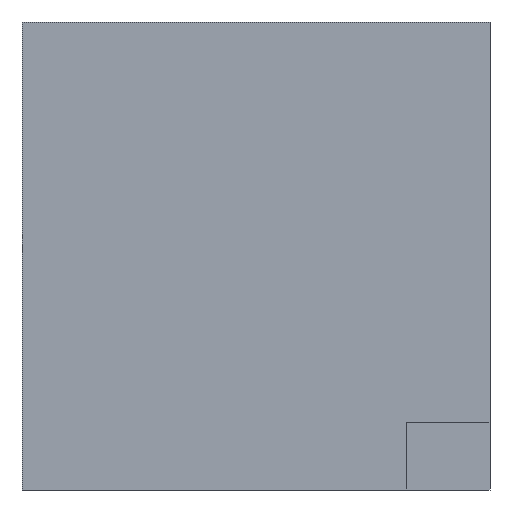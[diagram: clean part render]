
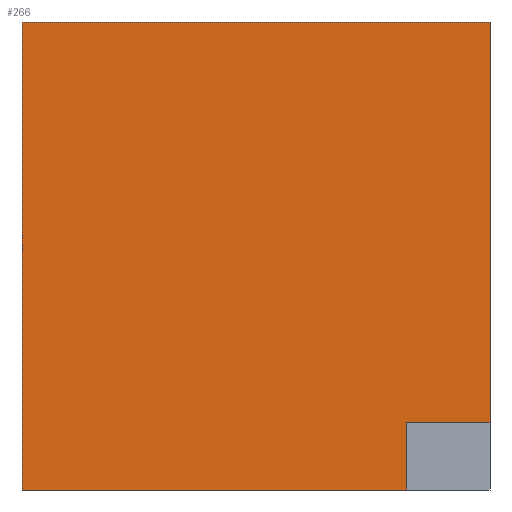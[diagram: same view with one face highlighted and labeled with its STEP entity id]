
A CAD part, front view. The second image highlights one B-rep face of the part: STEP entity #266.
In plain terms, the highlighted planar face has unit normal (0, -1, 0).
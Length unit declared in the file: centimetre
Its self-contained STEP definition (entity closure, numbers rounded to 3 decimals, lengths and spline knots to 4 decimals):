
#6 = VECTOR ( 'NONE', #272, 100. ) ;
#7 = VECTOR ( 'NONE', #42, 100. ) ;
#8 = DIRECTION ( 'NONE',  ( 0., 0., -1. ) ) ;
#23 = ORIENTED_EDGE ( 'NONE', *, *, #87, .T. ) ;
#24 = DIRECTION ( 'NONE',  ( 0., 1., 0. ) ) ;
#42 = DIRECTION ( 'NONE',  ( 0., 0., -1. ) ) ;
#48 = EDGE_CURVE ( 'NONE', #221, #118, #376, .T. ) ;
#52 = ORIENTED_EDGE ( 'NONE', *, *, #83, .F. ) ;
#54 = ORIENTED_EDGE ( 'NONE', *, *, #206, .F. ) ;
#72 = CARTESIAN_POINT ( 'NONE',  ( 1000., 0., 143.8856 ) ) ;
#76 = DIRECTION ( 'NONE',  ( 1., 0., 0. ) ) ;
#81 = VECTOR ( 'NONE', #76, 100. ) ;
#83 = EDGE_CURVE ( 'NONE', #395, #118, #259, .T. ) ;
#86 = CARTESIAN_POINT ( 'NONE',  ( 0., 0., 1000. ) ) ;
#87 = EDGE_CURVE ( 'NONE', #399, #221, #227, .T. ) ;
#95 = CARTESIAN_POINT ( 'NONE',  ( 0., 0., 0. ) ) ;
#103 = CARTESIAN_POINT ( 'NONE',  ( 0., 0., 0. ) ) ;
#107 = CARTESIAN_POINT ( 'NONE',  ( 822.1695, 0., 143.8856 ) ) ;
#118 = VERTEX_POINT ( 'NONE', #346 ) ;
#123 = VERTEX_POINT ( 'NONE', #72 ) ;
#132 = DIRECTION ( 'NONE',  ( 1., 0., 0. ) ) ;
#134 = EDGE_LOOP ( 'NONE', ( #194, #52, #372, #54, #164, #23 ) ) ;
#153 = LINE ( 'NONE', #271, #232 ) ;
#158 = CARTESIAN_POINT ( 'NONE',  ( 822.1695, 0., 143.8856 ) ) ;
#164 = ORIENTED_EDGE ( 'NONE', *, *, #261, .F. ) ;
#166 = EDGE_CURVE ( 'NONE', #123, #395, #316, .T. ) ;
#181 = VERTEX_POINT ( 'NONE', #184 ) ;
#184 = CARTESIAN_POINT ( 'NONE',  ( 1000., 0., 1000. ) ) ;
#189 = LINE ( 'NONE', #394, #192 ) ;
#192 = VECTOR ( 'NONE', #132, 100. ) ;
#194 = ORIENTED_EDGE ( 'NONE', *, *, #48, .T. ) ;
#206 = EDGE_CURVE ( 'NONE', #181, #123, #153, .T. ) ;
#207 = CARTESIAN_POINT ( 'NONE',  ( 0., 0., 1000. ) ) ;
#212 = DIRECTION ( 'NONE',  ( 0., 0., 1. ) ) ;
#221 = VERTEX_POINT ( 'NONE', #95 ) ;
#227 = LINE ( 'NONE', #258, #7 ) ;
#232 = VECTOR ( 'NONE', #369, 100. ) ;
#258 = CARTESIAN_POINT ( 'NONE',  ( 0., 0., 1000. ) ) ;
#259 = LINE ( 'NONE', #107, #263 ) ;
#261 = EDGE_CURVE ( 'NONE', #399, #181, #189, .T. ) ;
#263 = VECTOR ( 'NONE', #8, 100. ) ;
#266 = ADVANCED_FACE ( 'NONE', ( #336 ), #307, .F. ) ;
#271 = CARTESIAN_POINT ( 'NONE',  ( 1000., 0., 1000. ) ) ;
#272 = DIRECTION ( 'NONE',  ( -1., 0., 0. ) ) ;
#307 = PLANE ( 'NONE',  #377 ) ;
#316 = LINE ( 'NONE', #158, #6 ) ;
#336 = FACE_OUTER_BOUND ( 'NONE', #134, .T. ) ;
#346 = CARTESIAN_POINT ( 'NONE',  ( 822.1695, 0., 0. ) ) ;
#359 = CARTESIAN_POINT ( 'NONE',  ( 822.1695, 0., 143.8856 ) ) ;
#369 = DIRECTION ( 'NONE',  ( 0., 0., -1. ) ) ;
#372 = ORIENTED_EDGE ( 'NONE', *, *, #166, .F. ) ;
#376 = LINE ( 'NONE', #103, #81 ) ;
#377 = AXIS2_PLACEMENT_3D ( 'NONE', #207, #24, #212 ) ;
#394 = CARTESIAN_POINT ( 'NONE',  ( 0., 0., 1000. ) ) ;
#395 = VERTEX_POINT ( 'NONE', #359 ) ;
#399 = VERTEX_POINT ( 'NONE', #86 ) ;
